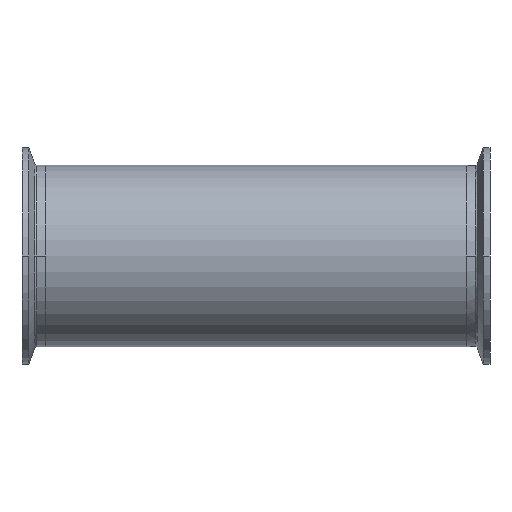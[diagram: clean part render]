
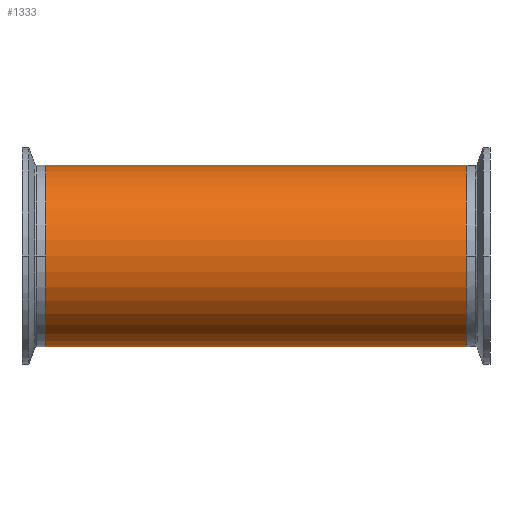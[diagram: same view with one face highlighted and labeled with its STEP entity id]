
A CAD part, front view. The second image highlights one B-rep face of the part: STEP entity #1333.
In plain terms, the highlighted cylindrical face has radius 38.1 mm (diameter 76.2 mm), a partial arc.
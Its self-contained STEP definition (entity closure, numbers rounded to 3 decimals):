
#129 = EDGE_CURVE ( 'NONE', #4038, #927, #2596, .T. ) ;
#244 = DIRECTION ( 'NONE',  ( 0., 0., 1. ) ) ;
#371 = CIRCLE ( 'NONE', #1641, 38.1 ) ;
#568 = CARTESIAN_POINT ( 'NONE',  ( -88.4, 0., -38.1 ) ) ;
#612 = DIRECTION ( 'NONE',  ( 0., 0., 1. ) ) ;
#615 = ORIENTED_EDGE ( 'NONE', *, *, #1836, .T. ) ;
#755 = CARTESIAN_POINT ( 'NONE',  ( 196.163, 0., 0. ) ) ;
#792 = DIRECTION ( 'NONE',  ( -1., 0., 0. ) ) ;
#927 = VERTEX_POINT ( 'NONE', #568 ) ;
#965 = CYLINDRICAL_SURFACE ( 'NONE', #3164, 38.1 ) ;
#1111 = VERTEX_POINT ( 'NONE', #2487 ) ;
#1114 = DIRECTION ( 'NONE',  ( -1., 0., 0. ) ) ;
#1295 = CARTESIAN_POINT ( 'NONE',  ( 88.4, 0., -38.1 ) ) ;
#1333 = ADVANCED_FACE ( 'NONE', ( #3848 ), #965, .T. ) ;
#1476 = ORIENTED_EDGE ( 'NONE', *, *, #129, .F. ) ;
#1545 = EDGE_LOOP ( 'NONE', ( #1476, #3483, #2167, #615 ) ) ;
#1641 = AXIS2_PLACEMENT_3D ( 'NONE', #4266, #2240, #244 ) ;
#1707 = VECTOR ( 'NONE', #3633, 1000. ) ;
#1805 = CARTESIAN_POINT ( 'NONE',  ( 196.163, 0., 38.1 ) ) ;
#1836 = EDGE_CURVE ( 'NONE', #1111, #927, #2793, .T. ) ;
#1932 = CARTESIAN_POINT ( 'NONE',  ( -88.4, 0., 0. ) ) ;
#2067 = EDGE_CURVE ( 'NONE', #4038, #2883, #371, .T. ) ;
#2167 = ORIENTED_EDGE ( 'NONE', *, *, #3380, .T. ) ;
#2240 = DIRECTION ( 'NONE',  ( -1., 0., 0. ) ) ;
#2268 = DIRECTION ( 'NONE',  ( 0., 0., 1. ) ) ;
#2487 = CARTESIAN_POINT ( 'NONE',  ( -88.4, 0., 38.1 ) ) ;
#2596 = LINE ( 'NONE', #3095, #1707 ) ;
#2777 = AXIS2_PLACEMENT_3D ( 'NONE', #1932, #4292, #2268 ) ;
#2793 = CIRCLE ( 'NONE', #2777, 38.1 ) ;
#2883 = VERTEX_POINT ( 'NONE', #2952 ) ;
#2952 = CARTESIAN_POINT ( 'NONE',  ( 88.4, 0., 38.1 ) ) ;
#3095 = CARTESIAN_POINT ( 'NONE',  ( 196.163, 0., -38.1 ) ) ;
#3137 = LINE ( 'NONE', #1805, #3933 ) ;
#3164 = AXIS2_PLACEMENT_3D ( 'NONE', #755, #792, #612 ) ;
#3380 = EDGE_CURVE ( 'NONE', #2883, #1111, #3137, .T. ) ;
#3483 = ORIENTED_EDGE ( 'NONE', *, *, #2067, .T. ) ;
#3633 = DIRECTION ( 'NONE',  ( -1., 0., 0. ) ) ;
#3848 = FACE_OUTER_BOUND ( 'NONE', #1545, .T. ) ;
#3933 = VECTOR ( 'NONE', #1114, 1000. ) ;
#4038 = VERTEX_POINT ( 'NONE', #1295 ) ;
#4266 = CARTESIAN_POINT ( 'NONE',  ( 88.4, 0., 0. ) ) ;
#4292 = DIRECTION ( 'NONE',  ( 1., 0., 0. ) ) ;
